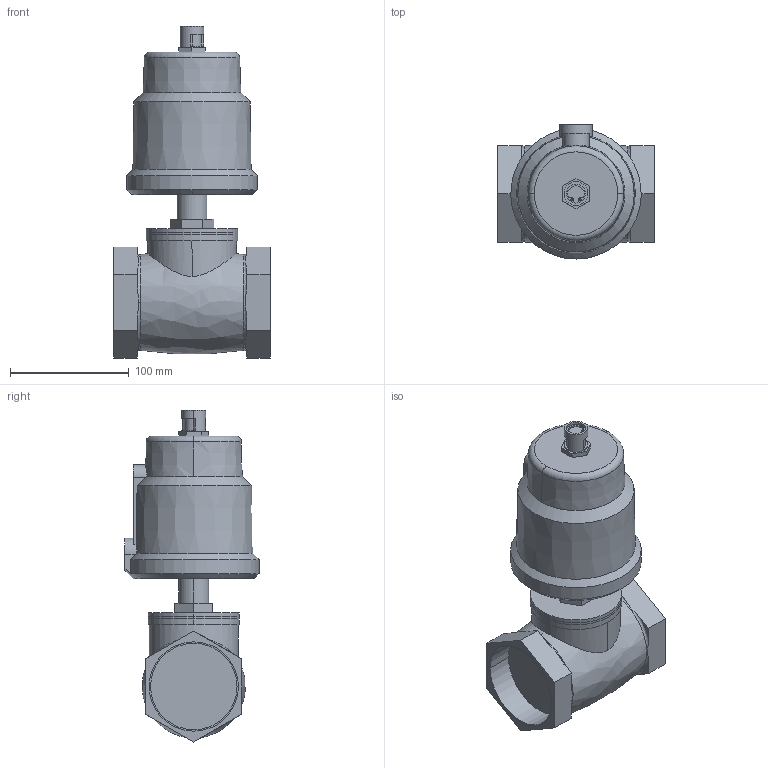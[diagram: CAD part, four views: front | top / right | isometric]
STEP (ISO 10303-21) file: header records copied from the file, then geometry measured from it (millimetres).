
FILE_DESCRIPTION((''),'2;1');
FILE_NAME('SB_KLAPAN_ASM','2024-06-08T',('AMD'),(''),'PRO/ENGINEER BY PARAMETRIC TECHNOLOGY CORPORATION, 2008020','PRO/ENGINEER BY PARAMETRIC TECHNOLOGY CORPORATION, 2008020','');
FILE_SCHEMA(('CONFIG_CONTROL_DESIGN'));
Length unit declared in the file: millimetre
Products named in the file (5): KLAPAN; UPLOTNENIE; KOLCO_16_GOST13943; KOLCO_95_GOST13943; SB_KLAPAN_ASM
Assembly tree (4 placements, depth 2):
  SB_KLAPAN_ASM
    KLAPAN
    UPLOTNENIE
    KOLCO_16_GOST13943
    KOLCO_95_GOST13943
Bounding box: 132 x 113 x 279.77 mm (x, y, z)
Volume: 1520238.7 mm3; surface area: 144031.5 mm2
Topology: 4 solids, 8 shells, 170 faces, 431 edges, 286 vertices
Faces by surface type: plane 86, cylinder 69, cone 7, torus 6, bspline 2
Entity records: 5567 total; most frequent: CARTESIAN_POINT 1206, DIRECTION 938, ORIENTED_EDGE 846, EDGE_CURVE 431, AXIS2_PLACEMENT_3D 363, VERTEX_POINT 286, VECTOR 212, LINE 212
